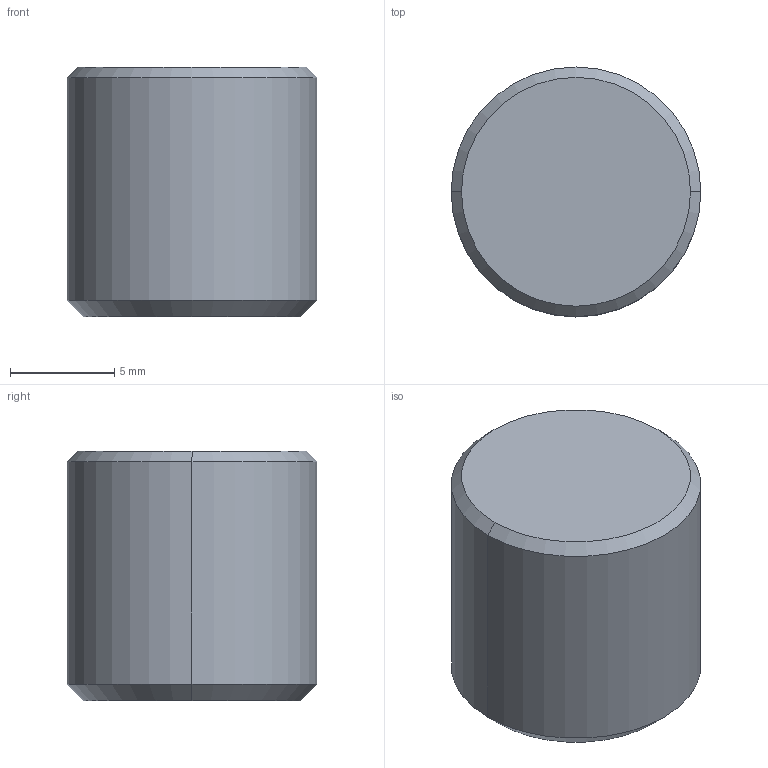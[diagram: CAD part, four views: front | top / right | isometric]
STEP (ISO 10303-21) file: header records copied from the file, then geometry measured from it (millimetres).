
FILE_DESCRIPTION (( 'STEP AP203' ), '1' );
FILE_NAME ('srp-122.STEP', '2021-10-25T04:28:33', ( '' ), ( '' ), 'SwSTEP 2.0', 'SolidWorks 2020', '' );
FILE_SCHEMA (( 'CONFIG_CONTROL_DESIGN' ));
Length unit declared in the file: millimetre
Products named in the file (1): srp-122
Bounding box: 12 x 12 x 12 mm (x, y, z)
Volume: 1215.4 mm3; surface area: 749.2 mm2
Topology: 1 solids, 1 shells, 11 faces, 20 edges, 12 vertices
Faces by surface type: cone 4, cylinder 4, plane 3
Entity records: 351 total; most frequent: DIRECTION 56, CARTESIAN_POINT 44, ORIENTED_EDGE 40, AXIS2_PLACEMENT_3D 24, EDGE_CURVE 20, EDGE_LOOP 12, VERTEX_POINT 12, CIRCLE 12
